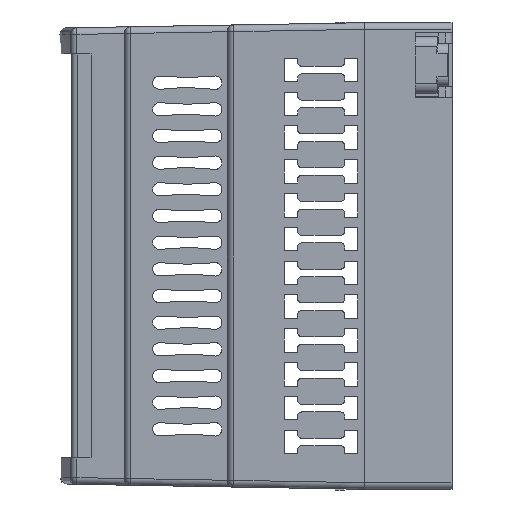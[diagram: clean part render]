
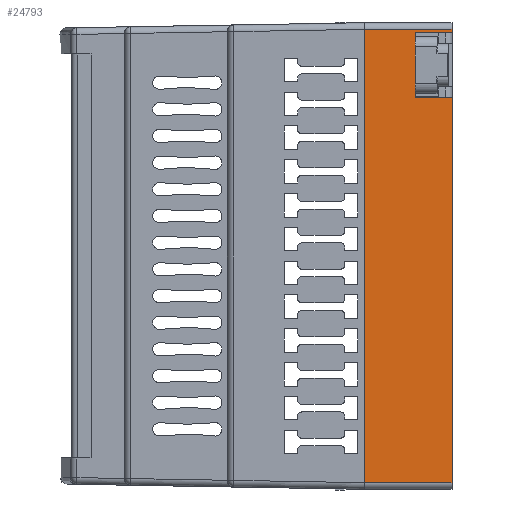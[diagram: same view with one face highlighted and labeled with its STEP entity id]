
A CAD part, left-side view. The second image highlights one B-rep face of the part: STEP entity #24793.
In plain terms, the highlighted planar face has unit normal (-1, 0, 0).
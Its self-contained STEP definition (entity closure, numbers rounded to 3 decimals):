
#683 = CARTESIAN_POINT ( 'NONE',  ( -45.3, 0., 34. ) ) ;
#832 = ORIENTED_EDGE ( 'NONE', *, *, #4949, .F. ) ;
#1902 = CARTESIAN_POINT ( 'NONE',  ( -45.3, -13.1, 35. ) ) ;
#3096 = LINE ( 'NONE', #10293, #7993 ) ;
#4349 = CARTESIAN_POINT ( 'NONE',  ( -45.3, 0., -34. ) ) ;
#4459 = EDGE_CURVE ( 'NONE', #8220, #31916, #32631, .T. ) ;
#4607 = CARTESIAN_POINT ( 'NONE',  ( -45.3, -13.1, 23.75 ) ) ;
#4949 = EDGE_CURVE ( 'NONE', #17505, #17023, #39777, .T. ) ;
#5356 = CARTESIAN_POINT ( 'NONE',  ( -45.3, -7.6, 35. ) ) ;
#5444 = DIRECTION ( 'NONE',  ( 0., -1., 0. ) ) ;
#7513 = LINE ( 'NONE', #35554, #39017 ) ;
#7993 = VECTOR ( 'NONE', #12533, 1000. ) ;
#8220 = VERTEX_POINT ( 'NONE', #39590 ) ;
#10293 = CARTESIAN_POINT ( 'NONE',  ( -45.3, -13.1, 33.5 ) ) ;
#11161 = CARTESIAN_POINT ( 'NONE',  ( -45.3, -7.6, 33.5 ) ) ;
#11388 = ORIENTED_EDGE ( 'NONE', *, *, #13365, .F. ) ;
#12533 = DIRECTION ( 'NONE',  ( 0., 1., 0. ) ) ;
#12665 = DIRECTION ( 'NONE',  ( 0., 1., 0. ) ) ;
#13264 = DIRECTION ( 'NONE',  ( 0., 0., 1. ) ) ;
#13365 = EDGE_CURVE ( 'NONE', #25147, #36646, #26850, .T. ) ;
#13787 = CARTESIAN_POINT ( 'NONE',  ( -45.3, -13.1, 35. ) ) ;
#14749 = CARTESIAN_POINT ( 'NONE',  ( -45.3, -13.1, 23.75 ) ) ;
#15459 = EDGE_CURVE ( 'NONE', #31916, #17023, #15950, .T. ) ;
#15848 = VECTOR ( 'NONE', #5444, 1000. ) ;
#15950 = LINE ( 'NONE', #38252, #38890 ) ;
#16762 = ORIENTED_EDGE ( 'NONE', *, *, #22856, .T. ) ;
#17023 = VERTEX_POINT ( 'NONE', #683 ) ;
#17505 = VERTEX_POINT ( 'NONE', #4349 ) ;
#17688 = PLANE ( 'NONE',  #20478 ) ;
#17898 = DIRECTION ( 'NONE',  ( 0., 0., 1. ) ) ;
#18041 = VECTOR ( 'NONE', #17898, 1000. ) ;
#18280 = CARTESIAN_POINT ( 'NONE',  ( -45.3, 0., 35. ) ) ;
#20299 = EDGE_CURVE ( 'NONE', #25147, #38500, #39596, .T. ) ;
#20478 = AXIS2_PLACEMENT_3D ( 'NONE', #13787, #38994, #39209 ) ;
#20522 = VERTEX_POINT ( 'NONE', #22845 ) ;
#20698 = LINE ( 'NONE', #26692, #15848 ) ;
#22845 = CARTESIAN_POINT ( 'NONE',  ( -45.3, -13.1, -34. ) ) ;
#22856 = EDGE_CURVE ( 'NONE', #17505, #20522, #20698, .T. ) ;
#23933 = ORIENTED_EDGE ( 'NONE', *, *, #20299, .T. ) ;
#24090 = DIRECTION ( 'NONE',  ( 0., 0., 1. ) ) ;
#24793 = ADVANCED_FACE ( 'NONE', ( #39585 ), #17688, .T. ) ;
#25147 = VERTEX_POINT ( 'NONE', #39532 ) ;
#25291 = EDGE_CURVE ( 'NONE', #20522, #36646, #7513, .T. ) ;
#26692 = CARTESIAN_POINT ( 'NONE',  ( -45.3, -13.1, -34. ) ) ;
#26850 = LINE ( 'NONE', #4607, #35953 ) ;
#28767 = ORIENTED_EDGE ( 'NONE', *, *, #4459, .T. ) ;
#29963 = DIRECTION ( 'NONE',  ( 0., -1., 0. ) ) ;
#31916 = VERTEX_POINT ( 'NONE', #39901 ) ;
#32631 = LINE ( 'NONE', #1902, #33738 ) ;
#33089 = EDGE_LOOP ( 'NONE', ( #11388, #23933, #38411, #28767, #35117, #832, #16762, #37997 ) ) ;
#33138 = EDGE_CURVE ( 'NONE', #8220, #38500, #3096, .T. ) ;
#33738 = VECTOR ( 'NONE', #36132, 1000. ) ;
#35109 = VECTOR ( 'NONE', #24090, 1000. ) ;
#35117 = ORIENTED_EDGE ( 'NONE', *, *, #15459, .T. ) ;
#35554 = CARTESIAN_POINT ( 'NONE',  ( -45.3, -13.1, 35. ) ) ;
#35953 = VECTOR ( 'NONE', #29963, 1000. ) ;
#36132 = DIRECTION ( 'NONE',  ( 0., 0., 1. ) ) ;
#36646 = VERTEX_POINT ( 'NONE', #14749 ) ;
#37997 = ORIENTED_EDGE ( 'NONE', *, *, #25291, .T. ) ;
#38252 = CARTESIAN_POINT ( 'NONE',  ( -45.3, -13.1, 34. ) ) ;
#38411 = ORIENTED_EDGE ( 'NONE', *, *, #33138, .F. ) ;
#38500 = VERTEX_POINT ( 'NONE', #11161 ) ;
#38890 = VECTOR ( 'NONE', #12665, 1000. ) ;
#38994 = DIRECTION ( 'NONE',  ( -1., 0., 0. ) ) ;
#39017 = VECTOR ( 'NONE', #13264, 1000. ) ;
#39209 = DIRECTION ( 'NONE',  ( 0., 0., 1. ) ) ;
#39532 = CARTESIAN_POINT ( 'NONE',  ( -45.3, -7.6, 23.75 ) ) ;
#39585 = FACE_OUTER_BOUND ( 'NONE', #33089, .T. ) ;
#39590 = CARTESIAN_POINT ( 'NONE',  ( -45.3, -13.1, 33.5 ) ) ;
#39596 = LINE ( 'NONE', #5356, #18041 ) ;
#39777 = LINE ( 'NONE', #18280, #35109 ) ;
#39901 = CARTESIAN_POINT ( 'NONE',  ( -45.3, -13.1, 34. ) ) ;
